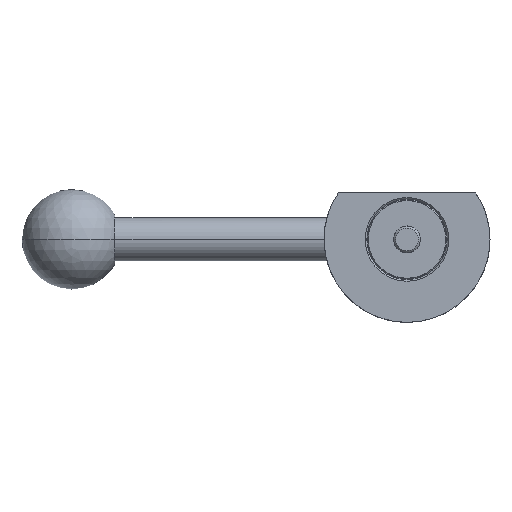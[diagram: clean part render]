
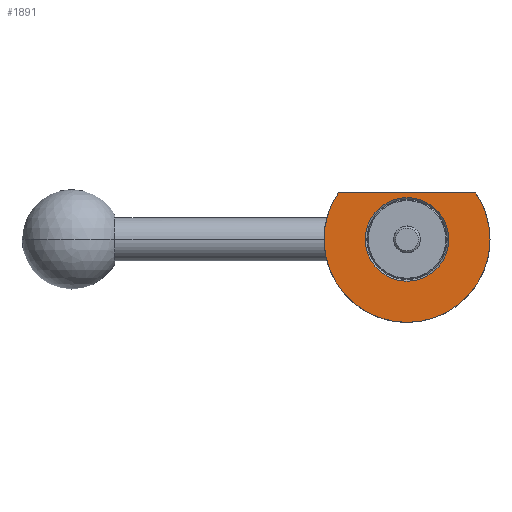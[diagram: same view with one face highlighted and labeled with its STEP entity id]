
A CAD part, front view. The second image highlights one B-rep face of the part: STEP entity #1891.
In plain terms, the highlighted planar face has unit normal (0, -1, 0).
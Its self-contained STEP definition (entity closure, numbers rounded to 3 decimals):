
#60 = DIRECTION ( 'NONE',  ( 0., 1., 0. ) ) ;
#100 = CARTESIAN_POINT ( 'NONE',  ( 0., -12., 0. ) ) ;
#163 = ORIENTED_EDGE ( 'NONE', *, *, #546, .T. ) ;
#247 = DIRECTION ( 'NONE',  ( 0., 1., 0. ) ) ;
#279 = ORIENTED_EDGE ( 'NONE', *, *, #807, .F. ) ;
#337 = DIRECTION ( 'NONE',  ( 1., 0., 0. ) ) ;
#400 = CIRCLE ( 'NONE', #1426, 12.6 ) ;
#476 = FACE_BOUND ( 'NONE', #586, .T. ) ;
#508 = CARTESIAN_POINT ( 'NONE',  ( 12.6, -12., 0. ) ) ;
#546 = EDGE_CURVE ( 'NONE', #1940, #1412, #400, .T. ) ;
#559 = CARTESIAN_POINT ( 'NONE',  ( 20.712, -12., 14. ) ) ;
#562 = DIRECTION ( 'NONE',  ( -1., 0., 0. ) ) ;
#586 = EDGE_LOOP ( 'NONE', ( #163, #1058 ) ) ;
#631 = AXIS2_PLACEMENT_3D ( 'NONE', #1384, #1374, #1530 ) ;
#639 = AXIS2_PLACEMENT_3D ( 'NONE', #1829, #247, #1059 ) ;
#647 = CARTESIAN_POINT ( 'NONE',  ( 0., -12., 0. ) ) ;
#657 = LINE ( 'NONE', #988, #1813 ) ;
#706 = CIRCLE ( 'NONE', #639, 25. ) ;
#788 = DIRECTION ( 'NONE',  ( 0., -1., 0. ) ) ;
#807 = EDGE_CURVE ( 'NONE', #1415, #1662, #706, .T. ) ;
#831 = DIRECTION ( 'NONE',  ( -1., 0., 0. ) ) ;
#864 = ORIENTED_EDGE ( 'NONE', *, *, #1035, .F. ) ;
#884 = DIRECTION ( 'NONE',  ( -1., 0., 0. ) ) ;
#937 = CARTESIAN_POINT ( 'NONE',  ( -12.6, -12., 0. ) ) ;
#945 = FACE_OUTER_BOUND ( 'NONE', #1308, .T. ) ;
#988 = CARTESIAN_POINT ( 'NONE',  ( -12.6, -12., 14. ) ) ;
#1035 = EDGE_CURVE ( 'NONE', #1662, #1977, #1524, .T. ) ;
#1058 = ORIENTED_EDGE ( 'NONE', *, *, #1616, .T. ) ;
#1059 = DIRECTION ( 'NONE',  ( -1., 0., 0. ) ) ;
#1250 = CIRCLE ( 'NONE', #1882, 25. ) ;
#1308 = EDGE_LOOP ( 'NONE', ( #279, #1603, #1775, #864 ) ) ;
#1374 = DIRECTION ( 'NONE',  ( 0., 1., 0. ) ) ;
#1384 = CARTESIAN_POINT ( 'NONE',  ( 0., -12., 0. ) ) ;
#1392 = AXIS2_PLACEMENT_3D ( 'NONE', #1444, #788, #337 ) ;
#1412 = VERTEX_POINT ( 'NONE', #937 ) ;
#1415 = VERTEX_POINT ( 'NONE', #559 ) ;
#1426 = AXIS2_PLACEMENT_3D ( 'NONE', #1966, #1460, #562 ) ;
#1444 = CARTESIAN_POINT ( 'NONE',  ( -12.6, -12., 0. ) ) ;
#1448 = CARTESIAN_POINT ( 'NONE',  ( -20.712, -12., 14. ) ) ;
#1460 = DIRECTION ( 'NONE',  ( 0., 1., 0. ) ) ;
#1524 = CIRCLE ( 'NONE', #631, 25. ) ;
#1530 = DIRECTION ( 'NONE',  ( -1., 0., 0. ) ) ;
#1549 = EDGE_CURVE ( 'NONE', #1415, #1596, #657, .T. ) ;
#1573 = EDGE_CURVE ( 'NONE', #1977, #1596, #1250, .T. ) ;
#1590 = CIRCLE ( 'NONE', #1887, 12.6 ) ;
#1596 = VERTEX_POINT ( 'NONE', #1448 ) ;
#1603 = ORIENTED_EDGE ( 'NONE', *, *, #1549, .T. ) ;
#1615 = DIRECTION ( 'NONE',  ( -1., 0., 0. ) ) ;
#1616 = EDGE_CURVE ( 'NONE', #1412, #1940, #1590, .T. ) ;
#1662 = VERTEX_POINT ( 'NONE', #1988 ) ;
#1738 = CARTESIAN_POINT ( 'NONE',  ( -25., -12., 0. ) ) ;
#1759 = DIRECTION ( 'NONE',  ( 0., 1., 0. ) ) ;
#1775 = ORIENTED_EDGE ( 'NONE', *, *, #1573, .F. ) ;
#1813 = VECTOR ( 'NONE', #1615, 1000. ) ;
#1829 = CARTESIAN_POINT ( 'NONE',  ( 0., -12., 0. ) ) ;
#1880 = PLANE ( 'NONE',  #1392 ) ;
#1882 = AXIS2_PLACEMENT_3D ( 'NONE', #647, #1759, #831 ) ;
#1887 = AXIS2_PLACEMENT_3D ( 'NONE', #100, #60, #884 ) ;
#1891 = ADVANCED_FACE ( 'NONE', ( #476, #945 ), #1880, .T. ) ;
#1940 = VERTEX_POINT ( 'NONE', #508 ) ;
#1966 = CARTESIAN_POINT ( 'NONE',  ( 0., -12., 0. ) ) ;
#1977 = VERTEX_POINT ( 'NONE', #1738 ) ;
#1988 = CARTESIAN_POINT ( 'NONE',  ( 25., -12., 0. ) ) ;
